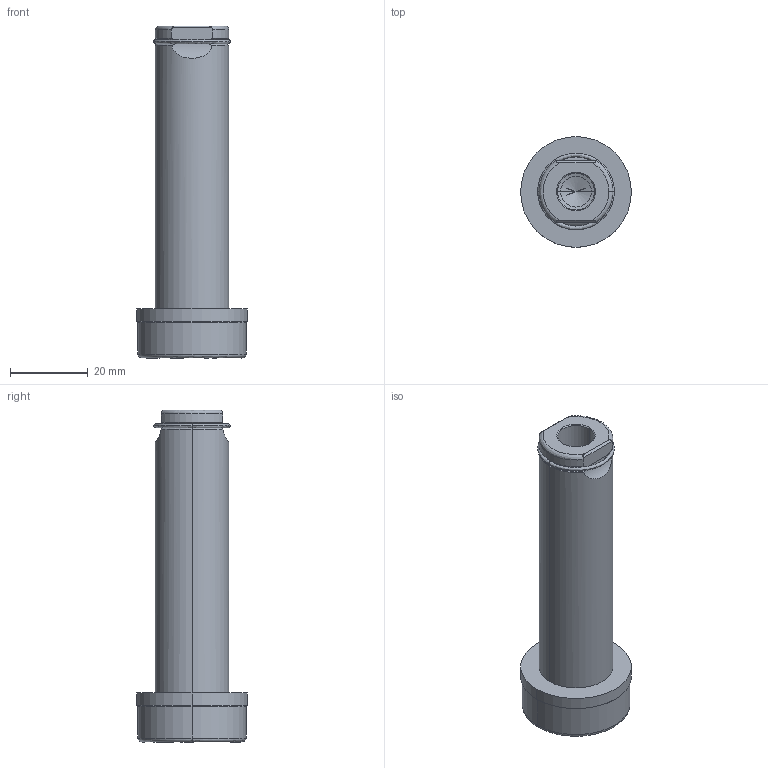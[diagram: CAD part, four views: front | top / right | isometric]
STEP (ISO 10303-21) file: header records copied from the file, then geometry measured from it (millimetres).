
FILE_DESCRIPTION (( 'STEP AP214' ), '1' );
FILE_NAME ('GK75-E-XXX-GuidePin.STEP', '2020-10-21T11:43:55', ( '' ), ( '' ), 'SwSTEP 2.0', 'SolidWorks 2017', '' );
FILE_SCHEMA (( 'AUTOMOTIVE_DESIGN' ));
Length unit declared in the file: inch
Products named in the file (4): GK75-E-XXX-GuidePin; GK75-Cring; GK75-DampeningWasher
Assembly tree (3 placements, depth 2):
  GK75-E-XXX-GuidePin
    GK75-E-XXX-GuidePin
    GK75-DampeningWasher
    GK75-Cring
Bounding box: 28.57 x 28.57 x 85.67 mm (x, y, z)
Volume: 26523.6 mm3; surface area: 8724.8 mm2
Topology: 3 solids, 3 shells, 52 faces, 121 edges, 73 vertices
Faces by surface type: cylinder 20, bspline 17, plane 9, cone 6
Entity records: 2232 total; most frequent: CARTESIAN_POINT 794, ORIENTED_EDGE 238, DIRECTION 228, EDGE_CURVE 119, AXIS2_PLACEMENT_3D 97, VERTEX_POINT 73, CIRCLE 56, EDGE_LOOP 56
